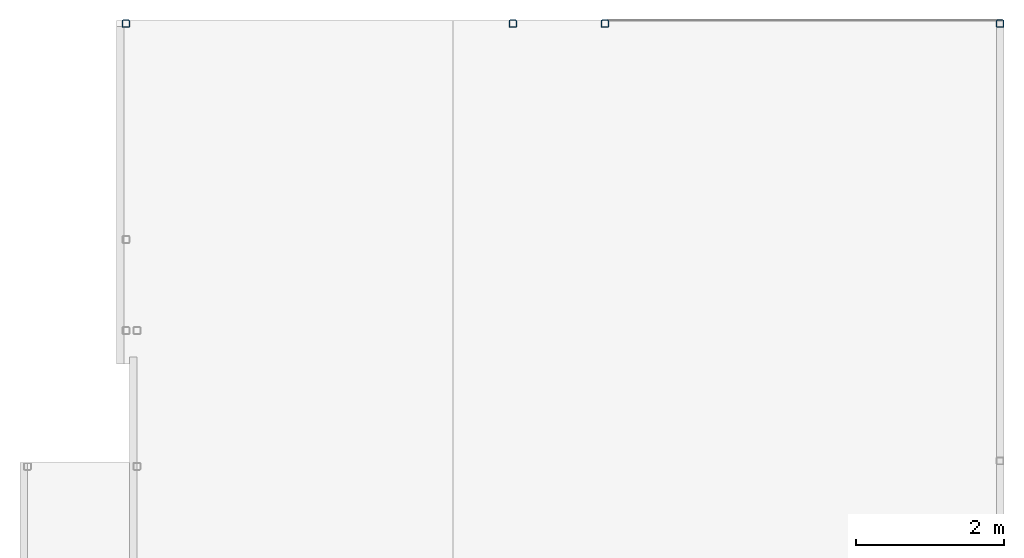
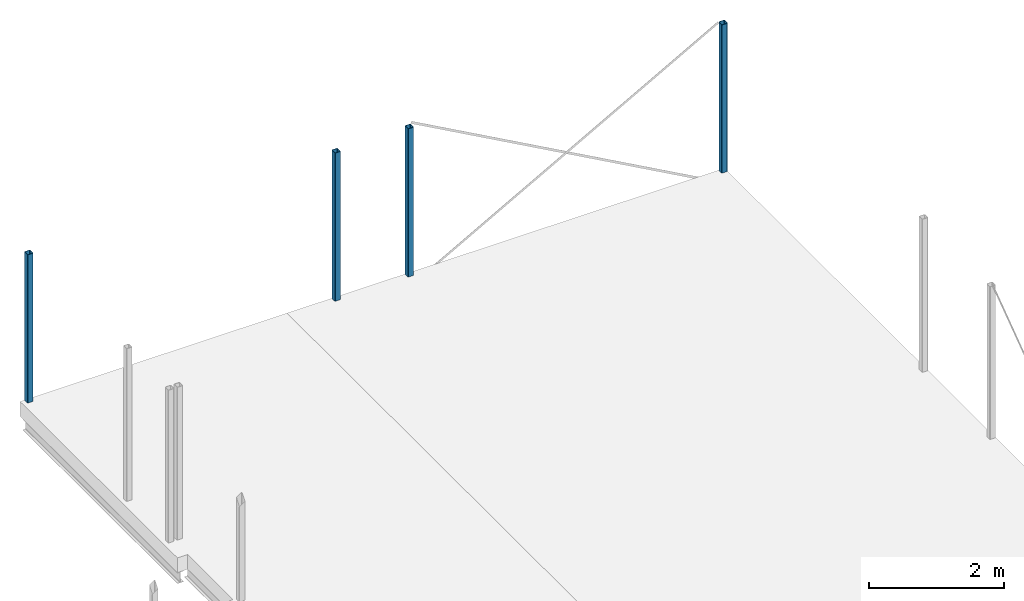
# One storey, part 3 of 4: 4 columns.
"""IFC2X3 building model written with IfcOpenShell, lengths in millimetres."""

from ifc_helpers import new_model, entity, si_unit, converted_unit, derived_unit, direction, frame, frame_2d, origin, place, context, subcontext, project, spatial, polyline, circle_curve, parameter, trimmed, segment, composite_curve, outline, extrude, source, transform, mapped, material, type_object, type_shapes, element, save


model = new_model("IFC2X3")

# Units and contexts
model_context = context("Model", 3, precision=0.01, world=origin(), true_north=direction((6.12303176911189e-17, 1.0)))
body_context = subcontext(model_context, "Body", "Model", "MODEL_VIEW")
ifc_project = project(units=[si_unit("LENGTHUNIT", "METRE", prefix="MILLI"), si_unit("AREAUNIT", "SQUARE_METRE"), si_unit("VOLUMEUNIT", "CUBIC_METRE"), converted_unit("PLANEANGLEUNIT", "DEGREE", entity("IfcRatioMeasure", 0.0174532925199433), si_unit("PLANEANGLEUNIT", "RADIAN"), dimensions=[0, 0, 0, 0, 0, 0, 0]), si_unit("MASSUNIT", "GRAM", prefix="KILO"), derived_unit("MASSDENSITYUNIT", [(si_unit("MASSUNIT", "GRAM", prefix="KILO"), 1), (si_unit("LENGTHUNIT", "METRE"), -3)]), si_unit("TIMEUNIT", "SECOND"), si_unit("FREQUENCYUNIT", "HERTZ"), si_unit("THERMODYNAMICTEMPERATUREUNIT", "DEGREE_CELSIUS"), derived_unit("THERMALTRANSMITTANCEUNIT", [(si_unit("MASSUNIT", "GRAM", prefix="KILO"), 1), (si_unit("THERMODYNAMICTEMPERATUREUNIT", "KELVIN"), -1), (si_unit("TIMEUNIT", "SECOND"), -3)]), derived_unit("VOLUMETRICFLOWRATEUNIT", [(si_unit("LENGTHUNIT", "METRE"), 3), (si_unit("TIMEUNIT", "SECOND"), -1)]), si_unit("ELECTRICCURRENTUNIT", "AMPERE"), si_unit("ELECTRICVOLTAGEUNIT", "VOLT"), si_unit("POWERUNIT", "WATT"), si_unit("FORCEUNIT", "NEWTON", prefix="KILO"), si_unit("ILLUMINANCEUNIT", "LUX"), si_unit("LUMINOUSFLUXUNIT", "LUMEN"), si_unit("LUMINOUSINTENSITYUNIT", "CANDELA"), derived_unit("USERDEFINED", [(si_unit("MASSUNIT", "GRAM", prefix="KILO"), -1), (si_unit("LENGTHUNIT", "METRE"), -2), (si_unit("TIMEUNIT", "SECOND"), 3), (si_unit("LUMINOUSFLUXUNIT", "LUMEN"), 1)]), derived_unit("LINEARVELOCITYUNIT", [(si_unit("LENGTHUNIT", "METRE"), 1), (si_unit("TIMEUNIT", "SECOND"), -1)]), si_unit("PRESSUREUNIT", "PASCAL"), derived_unit("USERDEFINED", [(si_unit("LENGTHUNIT", "METRE"), -2), (si_unit("MASSUNIT", "GRAM", prefix="KILO"), 1), (si_unit("TIMEUNIT", "SECOND"), -2)])], contexts=[model_context])

# Site, building, storey
site_placement = place(None, frame((0.0, 0.0, 101000.0)))
site = spatial("IfcSite", under=ifc_project, at=site_placement, Name="Default", CompositionType="ELEMENT")
building_placement = place(site_placement, origin())
building = spatial("IfcBuilding", under=site, at=building_placement, CompositionType="ELEMENT")
storey_placement = place(building_placement, frame((0.0, 0.0, 3150.0)))
storey = spatial("IfcBuildingStorey", under=building, at=storey_placement, Name="02", CompositionType="ELEMENT", Elevation=3149.9999999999)

# Columns
ifc_material = material(Name="S355")
column_type = type_object("IfcColumnType", Name="HUP 100x100x6.3", PredefinedType="COLUMN", material=ifc_material)
shared_shape = source(origin(), body_context, "Body", "SweptSolid", [
    extrude(outline(composite_curve([segment(polyline([(-37.4000000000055, -50.0), (37.4000000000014, -50.0)]), True, "CONTINUOUS"), segment(trimmed(circle_curve(frame_2d((37.4000000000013, -37.3999999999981), x_axis=(-1.0, 0.0)), 12.6000000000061), [parameter(90.0000000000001)], [parameter(180.0)], True, "PARAMETER"), True, "CONTINUOUS"), segment(polyline([(50.0, -37.3999999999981), (50.0, 37.4000000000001)]), True, "CONTINUOUS"), segment(trimmed(circle_curve(frame_2d((37.4000000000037, 37.4000000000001), x_axis=(-1.0, 0.0)), 12.6000000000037), [parameter(180.0)], [parameter(270.0)], True, "PARAMETER"), True, "CONTINUOUS"), segment(polyline([(37.4000000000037, 50.0), (-37.4000000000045, 50.0)]), True, "CONTINUOUS"), segment(trimmed(circle_curve(frame_2d((-37.4000000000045, 37.4000000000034), x_axis=(-1.0, 0.0)), 12.6000000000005), [parameter(270.0)], [parameter(360.0)], True, "PARAMETER"), True, "CONTINUOUS"), segment(polyline([(-50.0, 37.4000000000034), (-50.0, -37.4000000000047)]), True, "CONTINUOUS"), segment(trimmed(circle_curve(frame_2d((-37.4000000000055, -37.4000000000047), x_axis=(-1.0, 0.0)), 12.5999999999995), [parameter(360.0)], [parameter(89.9999999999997)], True, "PARAMETER"), True, "CONTINUOUS")], self_intersect=False), holes=[composite_curve([segment(trimmed(circle_curve(frame_2d((-37.4000000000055, -37.4000000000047), x_axis=(-1.0, 0.0)), 6.2999999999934), [parameter(0.0)], [parameter(90.0)], True, "PARAMETER"), False, "CONTINUOUS"), segment(polyline([(-43.6999999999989, -37.4000000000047), (-43.6999999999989, 37.4000000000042)]), True, "CONTINUOUS"), segment(trimmed(circle_curve(frame_2d((-37.4000000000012, 37.4000000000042), x_axis=(-1.0, 0.0)), 6.29999999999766), [parameter(270.0)], [parameter(360.0)], True, "PARAMETER"), False, "CONTINUOUS"), segment(polyline([(-37.4000000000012, 43.7000000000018), (37.3999999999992, 43.7000000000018)]), True, "CONTINUOUS"), segment(trimmed(circle_curve(frame_2d((37.3999999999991, 37.3999999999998), x_axis=(-1.0, 0.0)), 6.30000000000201), [parameter(180.0)], [parameter(270.0)], True, "PARAMETER"), False, "CONTINUOUS"), segment(polyline([(43.7000000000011, 37.3999999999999), (43.7000000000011, -37.3999999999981)]), True, "CONTINUOUS"), segment(trimmed(circle_curve(frame_2d((37.4000000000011, -37.3999999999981), x_axis=(-1.0, 0.0)), 6.30000000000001), [parameter(90.0000000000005)], [parameter(180.0)], True, "PARAMETER"), False, "CONTINUOUS"), segment(polyline([(37.4000000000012, -43.6999999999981), (-37.4000000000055, -43.6999999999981)]), True, "CONTINUOUS")], self_intersect=False)]), frame((0.0, 0.0, 3150.0), z_axis=(0.0, 0.0, 1.0), x_axis=(-1.0, 0.0, 0.0)), (0.0, 0.0, 1.0), 2675.0),
])
type_shapes(column_type, [shared_shape])
for number, where, name in (
    (1, (11260.9045409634, 44342.9507529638, -3150.0), "Søyle HUP:HUP 100x100x6.3"),
    (2, (16507.0344394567, 44342.9507529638, -3150.0), "Søyle HUP:HUP 100x100x6.3"),
    (3, (17755.2234858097, 44342.9507529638, -3150.0), "Søyle HUP:HUP 100x100x6.3"),
    (4, (23111.2644969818, 44342.9507529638, -3150.0), "Søyle HUP:HUP 100x100x6.3"),
):
    element("IfcColumn", number, at=place(storey_placement, frame(where)), inside=storey, type_object=column_type, material=ifc_material, Name=name, ObjectType="HUP 100x100x6.3", context=body_context, shape_type="MappedRepresentation", body=[
        mapped(shared_shape, transform((0.0, 0.0, 0.0), scale=1.0)),
    ])

save(model, "model.ifc")
